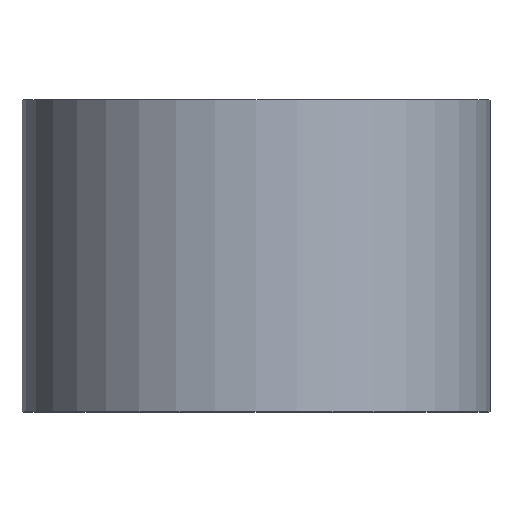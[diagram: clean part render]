
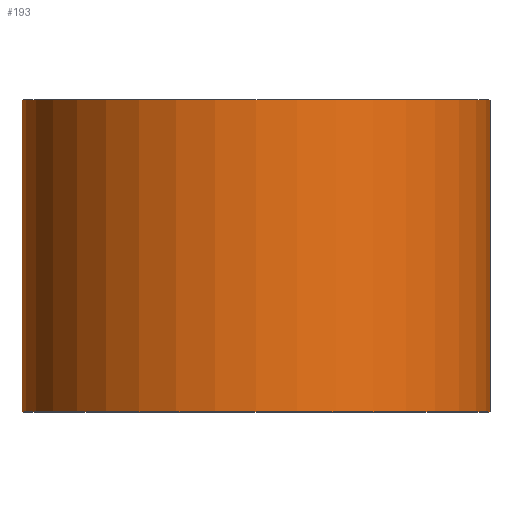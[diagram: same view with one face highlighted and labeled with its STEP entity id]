
A CAD part, top view. The second image highlights one B-rep face of the part: STEP entity #193.
In plain terms, the highlighted cylindrical face has radius 9 mm (diameter 18 mm), a partial arc.
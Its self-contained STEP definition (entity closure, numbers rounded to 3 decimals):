
#17 = VERTEX_POINT ( 'NONE', #229 ) ;
#22 = ORIENTED_EDGE ( 'NONE', *, *, #232, .T. ) ;
#27 = CARTESIAN_POINT ( 'NONE',  ( 0., 12., 0. ) ) ;
#31 = EDGE_CURVE ( 'NONE', #113, #280, #92, .T. ) ;
#33 = LINE ( 'NONE', #201, #108 ) ;
#34 = CARTESIAN_POINT ( 'NONE',  ( 0., 0., 0. ) ) ;
#39 = ORIENTED_EDGE ( 'NONE', *, *, #243, .T. ) ;
#54 = AXIS2_PLACEMENT_3D ( 'NONE', #140, #261, #213 ) ;
#78 = DIRECTION ( 'NONE',  ( 0., 1., 0. ) ) ;
#79 = DIRECTION ( 'NONE',  ( 0., 1., 0. ) ) ;
#85 = AXIS2_PLACEMENT_3D ( 'NONE', #34, #79, #293 ) ;
#92 = CIRCLE ( 'NONE', #288, 9. ) ;
#108 = VECTOR ( 'NONE', #123, 1000. ) ;
#113 = VERTEX_POINT ( 'NONE', #265 ) ;
#123 = DIRECTION ( 'NONE',  ( 0., 1., 0. ) ) ;
#125 = EDGE_LOOP ( 'NONE', ( #22, #39, #260, #129 ) ) ;
#129 = ORIENTED_EDGE ( 'NONE', *, *, #267, .F. ) ;
#140 = CARTESIAN_POINT ( 'NONE',  ( 0., 0., 0. ) ) ;
#160 = VECTOR ( 'NONE', #78, 1000. ) ;
#193 = ADVANCED_FACE ( 'NONE', ( #197 ), #279, .T. ) ;
#197 = FACE_OUTER_BOUND ( 'NONE', #125, .T. ) ;
#201 = CARTESIAN_POINT ( 'NONE',  ( -9., 0., 0. ) ) ;
#213 = DIRECTION ( 'NONE',  ( -1., 0., 0. ) ) ;
#214 = DIRECTION ( 'NONE',  ( 0., 1., 0. ) ) ;
#217 = CIRCLE ( 'NONE', #85, 9. ) ;
#226 = LINE ( 'NONE', #274, #160 ) ;
#229 = CARTESIAN_POINT ( 'NONE',  ( -9., 0., 0. ) ) ;
#232 = EDGE_CURVE ( 'NONE', #17, #239, #217, .T. ) ;
#238 = DIRECTION ( 'NONE',  ( -1., 0., 0. ) ) ;
#239 = VERTEX_POINT ( 'NONE', #284 ) ;
#243 = EDGE_CURVE ( 'NONE', #239, #280, #226, .T. ) ;
#260 = ORIENTED_EDGE ( 'NONE', *, *, #31, .F. ) ;
#261 = DIRECTION ( 'NONE',  ( 0., 1., 0. ) ) ;
#265 = CARTESIAN_POINT ( 'NONE',  ( -9., 12., 0. ) ) ;
#267 = EDGE_CURVE ( 'NONE', #17, #113, #33, .T. ) ;
#272 = CARTESIAN_POINT ( 'NONE',  ( 9., 12., 0. ) ) ;
#274 = CARTESIAN_POINT ( 'NONE',  ( 9., 0., 0. ) ) ;
#279 = CYLINDRICAL_SURFACE ( 'NONE', #54, 9. ) ;
#280 = VERTEX_POINT ( 'NONE', #272 ) ;
#284 = CARTESIAN_POINT ( 'NONE',  ( 9., 0., 0. ) ) ;
#288 = AXIS2_PLACEMENT_3D ( 'NONE', #27, #214, #238 ) ;
#293 = DIRECTION ( 'NONE',  ( -1., 0., 0. ) ) ;
